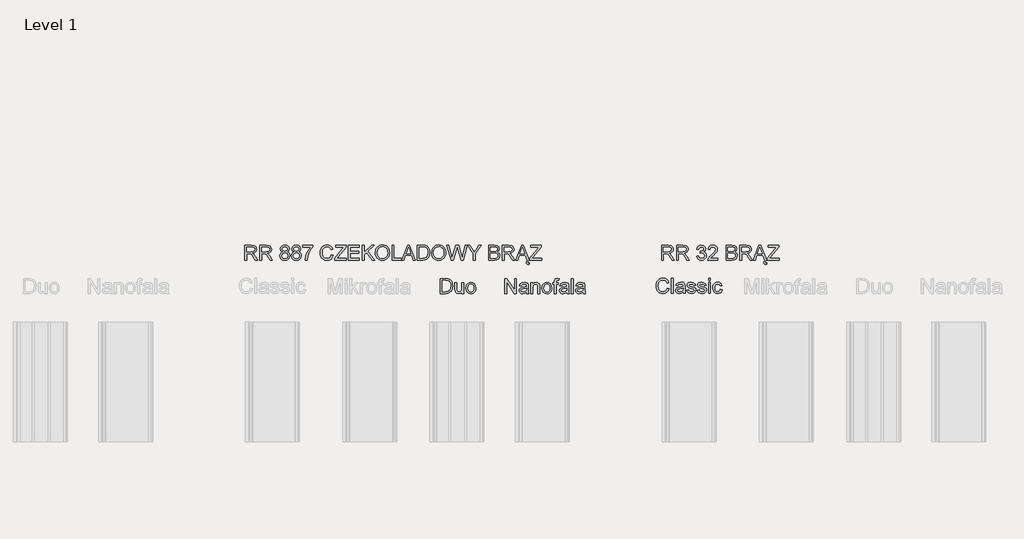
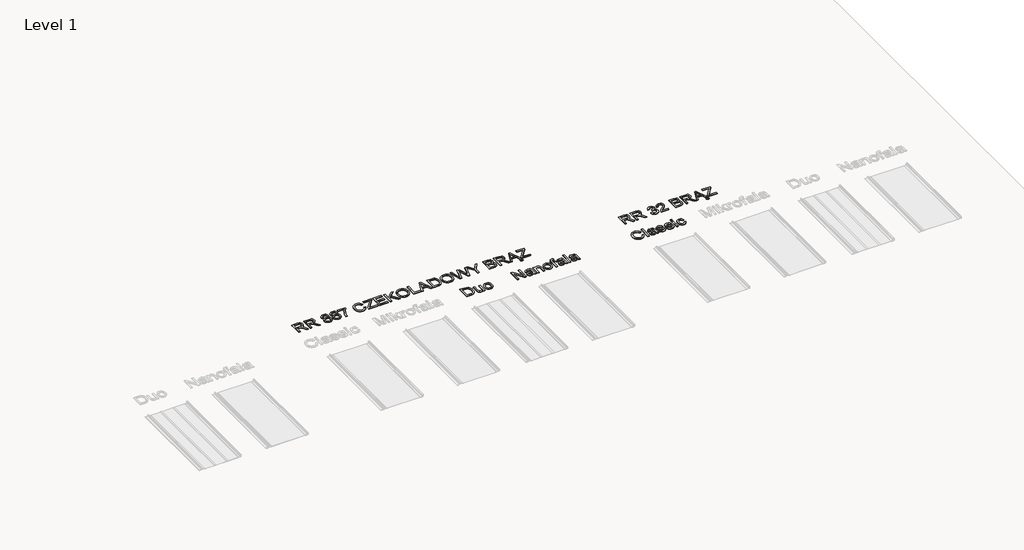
# One storey, part 20 of 22: 5 proxies.
"""IFC4 building model written with IfcOpenShell, lengths in millimetres."""

from ifc_helpers import new_model, si_unit, frame, origin, place, context, project, spatial, polyline, outline, extrude, element, save

model = new_model("IFC4")

# Units and contexts
model_context = context("Model", 3, world=origin())
ifc_project = project(units=[si_unit("LENGTHUNIT", "METRE", prefix="MILLI")], contexts=[model_context])

# Site, building, storey
site = spatial("IfcSite", under=ifc_project)
building = spatial("IfcBuilding", under=site)
storey = spatial("IfcBuildingStorey", under=building, Name="Level 1", Elevation=0.0)

# Proxies
placement = place(None, origin())
element("IfcBuildingElementProxy", 1, Name="150", ObjectType="150", at=placement, inside=storey, context=model_context, shape_type="SweptSolid", body=[
    extrude(outline(polyline([(1632.4192925, 1127.8407532), (1632.4192925, 1278.5252184), (1684.4010184, 1278.5252184), (1711.2931923, 1276.3547147), (1733.4396884, 1265.5757722), (1743.8599459, 1254.097854), (1751.2819651, 1239.8240325), (1755.7241402, 1223.0302195), (1757.2048653, 1203.9923262), (1753.1949515, 1173.5868793), (1742.8942557, 1151.6427183), (1729.135469, 1137.9759022), (1711.1276454, 1130.4159272), (1686.902616, 1127.8407532), (1632.4192925, 1127.8407532)]), holes=[polyline([(1651.2548507, 1146.6763114), (1684.5849594, 1146.6763114), (1708.8283829, 1149.3986381), (1722.8078987, 1157.0873718), (1734.2674229, 1175.7941713), (1738.3693071, 1204.2866318), (1736.3597517, 1224.8144471), (1730.3310855, 1239.9711853), (1721.4237427, 1250.3822458), (1710.7781575, 1256.6730279), (1684.0699246, 1259.6896603), (1651.2548507, 1259.6896603), (1651.2548507, 1146.6763114)])]), frame((0.0, 0.0, 600.0), z_axis=(0.0, 0.0, 1.0), x_axis=(1.0, 0.0, 0.0)), (0.0, 0.0, 1.0), 10.0),
    extrude(outline(polyline([(1851.382656, 1127.8407532), (1851.382656, 1146.8602524), (1836.630588, 1130.8297944), (1817.3903597, 1125.4863084), (1799.6768416, 1129.2387048), (1787.4631594, 1138.6564839), (1781.8529589, 1152.5256351), (1780.749313, 1170.0368181), (1780.749313, 1238.4996574), (1799.5848711, 1238.4996574), (1799.5848711, 1178.9027741), (1800.7253053, 1159.699334), (1808.1749157, 1148.4237508), (1822.2096138, 1144.3218666), (1837.9365691, 1148.5157213), (1848.3292355, 1159.9384573), (1851.382656, 1180.9261251), (1851.382656, 1238.4996574), (1870.2182142, 1238.4996574), (1870.2182142, 1127.8407532), (1851.382656, 1127.8407532)])), frame((0.0, 0.0, 600.0), z_axis=(0.0, 0.0, 1.0), x_axis=(1.0, 0.0, 0.0)), (0.0, 0.0, 1.0), 10.0),
    extrude(outline(polyline([(1891.4082171, 1183.1702053), (1895.4825102, 1209.850847), (1907.7053895, 1228.6036317), (1922.8069454, 1237.7914845), (1940.8883455, 1240.8541021), (1960.6757983, 1237.1246984), (1976.4809285, 1225.9364872), (1986.8414052, 1208.1723854), (1990.2948974, 1184.7153097), (1988.7681871, 1165.6866135), (1984.1880563, 1151.2012599), (1976.6878621, 1140.3533396), (1966.4009618, 1132.2369431), (1954.1826811, 1127.1739671), (1940.8883455, 1125.4863084), (1920.8617693, 1129.2019166), (1905.0750332, 1140.348741), (1894.8249211, 1158.4853234), (1891.4082171, 1183.1702053)]), holes=[polyline([(1910.2437753, 1183.2069935), (1912.4234761, 1166.1602615), (1918.9625785, 1154.0155572), (1928.8034219, 1146.7452892), (1940.8883455, 1144.3218666), (1952.9180867, 1146.7590848), (1962.740536, 1154.0707395), (1969.2796384, 1166.3763922), (1971.4593393, 1183.7956047), (1969.2658429, 1200.3456959), (1962.6853537, 1212.3248534), (1952.8491088, 1219.5951213), (1940.8883455, 1222.018544), (1928.8034219, 1219.6043184), (1918.9625785, 1212.3616416), (1912.4234761, 1200.2445284), (1910.2437753, 1183.2069935)])]), frame((0.0, 0.0, 600.0), z_axis=(0.0, 0.0, 1.0), x_axis=(1.0, 0.0, 0.0)), (0.0, 0.0, 1.0), 10.0),
])
element("IfcBuildingElementProxy", 2, Name="150", ObjectType="150", at=placement, inside=storey, context=model_context, shape_type="SweptSolid", body=[
    extrude(outline(polyline([(3920.9914008, 1182.8181359), (3939.8269589, 1177.9620936), (3931.1357468, 1156.013334), (3917.4965218, 1139.9782776), (3899.5806686, 1130.1696239), (3878.0595719, 1126.9000726), (3856.2119799, 1129.3740791), (3838.8617453, 1136.7960983), (3825.5628112, 1148.908613), (3815.8691206, 1165.4541057), (3809.950819, 1184.9058662), (3807.9780518, 1205.7371842), (3810.2083364, 1227.7089364), (3816.8991902, 1246.6824503), (3827.7011253, 1262.0553191), (3842.2646538, 1273.2251362), (3859.5367135, 1280.0263546), (3878.4642421, 1282.2934274), (3899.1162176, 1279.3595685), (3916.1905407, 1270.5579918), (3929.1537825, 1256.4313231), (3937.4725141, 1237.5221886), (3918.636956, 1233.0340282), (3912.1070506, 1246.7698222), (3903.1859122, 1256.1921998), (3891.7631762, 1261.6414519), (3877.7284781, 1263.4578692), (3861.5508674, 1261.4437153), (3848.2611303, 1255.4012536), (3838.1765651, 1245.9650804), (3831.61447, 1233.7697922), (3826.81361, 1205.7739724), (3828.2345542, 1188.373154), (3832.4973868, 1173.3267804), (3839.7630562, 1161.2096672), (3850.1925108, 1152.59663), (3862.6959001, 1147.4508806), (3876.1833737, 1145.7356308), (3891.9057305, 1148.0716815), (3905.0069281, 1155.0798335), (3914.8983552, 1166.6865104), (3920.9914008, 1182.8181359)])), frame((0.0, 0.0, 600.0), z_axis=(0.0, 0.0, 1.0), x_axis=(1.0, 0.0, 0.0)), (0.0, 0.0, 1.0), 10.0),
    extrude(outline(polyline([(3963.3714066, 1129.2545174), (3963.3714066, 1279.9389826), (3982.2069648, 1279.9389826), (3982.2069648, 1129.2545174), (3963.3714066, 1129.2545174)])), frame((0.0, 0.0, 600.0), z_axis=(0.0, 0.0, 1.0), x_axis=(1.0, 0.0, 0.0)), (0.0, 0.0, 1.0), 10.0),
    extrude(outline(polyline([(4081.0936451, 1143.381186), (4062.828304, 1130.6156808), (4042.6499766, 1126.9000726), (4026.9092257, 1129.1349558), (4015.2979502, 1135.8396051), (4008.1380469, 1146.0207393), (4005.7514125, 1158.685077), (4009.356656, 1173.5842978), (4018.8296174, 1184.4000285), (4032.0181869, 1190.580446), (4048.3153593, 1193.4131374), (4080.9832805, 1199.8878605), (4081.0936451, 1204.0817152), (4079.796861, 1212.4878188), (4075.9065089, 1217.9876546), (4067.2060997, 1222.0711448), (4055.084388, 1223.4323082), (4036.0281007, 1219.8086705), (4026.9414154, 1206.9511948), (4008.1058572, 1209.3056396), (4016.2544434, 1227.6997393), (4032.6619804, 1238.4786818), (4057.5124092, 1242.2678663), (4080.339487, 1238.9201402), (4093.2337509, 1230.5140366), (4099.0094982, 1217.7301372), (4099.9292032, 1201.2490239), (4099.9292032, 1177.8149408), (4100.8856964, 1145.0918373), (4104.6380928, 1129.2545174), (4085.8025346, 1129.2545174), (4081.0936451, 1143.381186)]), holes=[polyline([(4081.0936451, 1181.0523023), (4050.7065923, 1175.276555), (4034.5013904, 1172.2231344), (4027.1621446, 1167.2567275), (4024.5869706, 1160.0094522), (4030.197171, 1149.8191209), (4046.6598903, 1145.7356308), (4065.7161777, 1150.2421852), (4078.0034363, 1161.1498864), (4080.9832805, 1175.7180134), (4081.0936451, 1181.0523023)])]), frame((0.0, 0.0, 600.0), z_axis=(0.0, 0.0, 1.0), x_axis=(1.0, 0.0, 0.0)), (0.0, 0.0, 1.0), 10.0),
    extrude(outline(polyline([(4118.7647614, 1162.2167442), (4137.6003195, 1164.5711889), (4140.5709666, 1156.5145732), (4146.3191228, 1150.5916731), (4166.2951151, 1145.7356308), (4185.4985553, 1150.1870029), (4191.7525492, 1160.6348516), (4190.1798537, 1165.4357116), (4185.4617671, 1169.0961375), (4166.0743859, 1174.4672146), (4137.7106841, 1183.6826586), (4125.331455, 1194.4432069), (4121.1192061, 1209.6367334), (4124.5037205, 1223.6714315), (4133.7375586, 1234.3951916), (4145.7121175, 1239.9686039), (4161.9173194, 1242.2678663), (4184.8363677, 1238.5706523), (4199.4044947, 1228.564262), (4205.8792178, 1211.6600843), (4187.0436597, 1209.3056396), (4179.9619313, 1219.6983059), (4163.3888474, 1223.4323082), (4145.3626296, 1219.8638528), (4139.9547643, 1211.5497197), (4142.1988445, 1206.068278), (4149.2253906, 1201.9112115), (4165.4489866, 1197.9012977), (4193.0953185, 1189.0353416), (4205.9344001, 1178.9921632), (4210.5881074, 1162.6214144), (4205.1250597, 1144.5951966), (4189.3613162, 1131.5169917), (4166.0375977, 1126.9000726), (4147.0456897, 1129.1257587), (4133.1857356, 1135.8028169), (4123.9335034, 1146.8576709), (4118.7647614, 1162.2167442)])), frame((0.0, 0.0, 600.0), z_axis=(0.0, 0.0, 1.0), x_axis=(1.0, 0.0, 0.0)), (0.0, 0.0, 1.0), 10.0),
    extrude(outline(polyline([(4224.714776, 1162.2167442), (4243.5503341, 1164.5711889), (4246.5209812, 1156.5145732), (4252.2691374, 1150.5916731), (4272.2451298, 1145.7356308), (4291.4485699, 1150.1870029), (4297.7025638, 1160.6348516), (4296.1298683, 1165.4357116), (4291.4117817, 1169.0961375), (4272.0244006, 1174.4672146), (4243.6606987, 1183.6826586), (4231.2814696, 1194.4432069), (4227.0692207, 1209.6367334), (4230.4537351, 1223.6714315), (4239.6875732, 1234.3951916), (4251.6621321, 1239.9686039), (4267.867334, 1242.2678663), (4290.7863823, 1238.5706523), (4305.3545093, 1228.564262), (4311.8292324, 1211.6600843), (4292.9936743, 1209.3056396), (4285.9119459, 1219.6983059), (4269.338862, 1223.4323082), (4251.3126442, 1219.8638528), (4245.9047789, 1211.5497197), (4248.1488591, 1206.068278), (4255.1754052, 1201.9112115), (4271.3990012, 1197.9012977), (4299.0453331, 1189.0353416), (4311.8844147, 1178.9921632), (4316.538122, 1162.6214144), (4311.0750743, 1144.5951966), (4295.3113309, 1131.5169917), (4271.9876124, 1126.9000726), (4252.9957044, 1129.1257587), (4239.1357502, 1135.8028169), (4229.883518, 1146.8576709), (4224.714776, 1162.2167442)])), frame((0.0, 0.0, 600.0), z_axis=(0.0, 0.0, 1.0), x_axis=(1.0, 0.0, 0.0)), (0.0, 0.0, 1.0), 10.0),
    extrude(outline(polyline([(4337.7281249, 1261.1034245), (4337.7281249, 1279.9389826), (4356.5636831, 1279.9389826), (4356.5636831, 1261.1034245), (4337.7281249, 1261.1034245)])), frame((0.0, 0.0, 600.0), z_axis=(0.0, 0.0, 1.0), x_axis=(1.0, 0.0, 0.0)), (0.0, 0.0, 1.0), 10.0),
    extrude(outline(polyline([(4337.7281249, 1129.2545174), (4337.7281249, 1239.9134216), (4356.5636831, 1239.9134216), (4356.5636831, 1129.2545174), (4337.7281249, 1129.2545174)])), frame((0.0, 0.0, 600.0), z_axis=(0.0, 0.0, 1.0), x_axis=(1.0, 0.0, 0.0)), (0.0, 0.0, 1.0), 10.0),
    extrude(outline(polyline([(4455.4503634, 1169.2800785), (4474.2859215, 1166.9256337), (4469.034406, 1150.1732074), (4459.1659715, 1137.5134682), (4445.60952, 1129.5534215), (4429.2939535, 1126.9000726), (4409.2581803, 1130.6018852), (4393.5910059, 1141.7073229), (4383.4788495, 1159.7289422), (4380.1081307, 1184.1792993), (4381.547469, 1200.9409227), (4385.865484, 1215.467663), (4393.1311534, 1227.1985001), (4403.4134551, 1235.572414), (4415.7145094, 1240.5940032), (4429.0364361, 1242.2678663), (4444.9519309, 1239.9686039), (4457.6760494, 1233.0708164), (4466.8041214, 1221.9423861), (4471.9314767, 1206.9511948), (4453.0959186, 1204.59675), (4444.3587212, 1218.7050245), (4429.1835889, 1223.4323082), (4417.0112934, 1221.1054546), (4407.3497925, 1214.1248937), (4401.0452148, 1202.1135465), (4398.9436889, 1184.6943341), (4400.9992295, 1167.0405968), (4407.1658515, 1154.987863), (4416.6526084, 1148.0486888), (4428.6685541, 1145.7356308), (4438.4220255, 1147.1795676), (4446.4188604, 1151.5113781), (4452.2359944, 1158.8414269), (4455.4503634, 1169.2800785)])), frame((0.0, 0.0, 600.0), z_axis=(0.0, 0.0, 1.0), x_axis=(1.0, 0.0, 0.0)), (0.0, 0.0, 1.0), 10.0),
])
element("IfcBuildingElementProxy", 3, Name="150", ObjectType="150", at=placement, inside=storey, context=model_context, shape_type="SweptSolid", body=[
    extrude(outline(polyline([(2283.2193428, 1127.8407532), (2283.2193428, 1278.5252184), (2303.3792761, 1278.5252184), (2382.1060231, 1159.147511), (2382.1060231, 1278.5252184), (2400.9415812, 1278.5252184), (2400.9415812, 1127.8407532), (2380.7816479, 1127.8407532), (2302.0549009, 1247.2552488), (2302.0549009, 1127.8407532), (2283.2193428, 1127.8407532)])), frame((0.0, 0.0, 600.0), z_axis=(0.0, 0.0, 1.0), x_axis=(1.0, 0.0, 0.0)), (0.0, 0.0, 1.0), 10.0),
    extrude(outline(polyline([(2502.1827063, 1141.9674218), (2483.9173653, 1129.2019166), (2463.7390378, 1125.4863084), (2447.998287, 1127.7211916), (2436.3870115, 1134.4258409), (2429.2271081, 1144.6069751), (2426.8404737, 1157.2713128), (2430.4457173, 1172.1705336), (2439.9186786, 1182.9862643), (2453.1072482, 1189.1666818), (2469.4044205, 1191.9993732), (2502.0723417, 1198.4740963), (2502.1827063, 1202.667951), (2500.8859223, 1211.0740546), (2496.9955702, 1216.5738904), (2488.295161, 1220.6573806), (2476.1734493, 1222.018544), (2457.1171619, 1218.3949063), (2448.0304766, 1205.5374306), (2429.1949185, 1207.8918754), (2437.3435047, 1226.2859751), (2453.7510417, 1237.0649176), (2478.6014704, 1240.8541021), (2501.4285482, 1237.506376), (2514.3228122, 1229.1002724), (2520.0985595, 1216.316373), (2521.0182645, 1199.8352597), (2521.0182645, 1176.4011766), (2521.9747577, 1143.6780731), (2525.727154, 1127.8407532), (2506.8915959, 1127.8407532), (2502.1827063, 1141.9674218)]), holes=[polyline([(2502.1827063, 1179.6385381), (2471.7956535, 1173.8627908), (2455.5904516, 1170.8093702), (2448.2512058, 1165.8429633), (2445.6760319, 1158.595688), (2451.2862323, 1148.4053567), (2467.7489516, 1144.3218666), (2486.8052389, 1148.828421), (2499.0924976, 1159.7361222), (2502.0723417, 1174.3042492), (2502.1827063, 1179.6385381)])]), frame((0.0, 0.0, 600.0), z_axis=(0.0, 0.0, 1.0), x_axis=(1.0, 0.0, 0.0)), (0.0, 0.0, 1.0), 10.0),
    extrude(outline(polyline([(2546.9171569, 1127.8407532), (2546.9171569, 1238.4996574), (2565.7527151, 1238.4996574), (2565.7527151, 1223.0486136), (2580.1552952, 1236.40273), (2599.8185878, 1240.8541021), (2617.6056823, 1237.2672527), (2629.7457881, 1227.8494736), (2635.3927768, 1213.9987165), (2636.3860582, 1195.7885577), (2636.3860582, 1127.8407532), (2617.5505, 1127.8407532), (2617.5505, 1193.250172), (2615.3799962, 1209.9152263), (2607.7096566, 1218.7260001), (2594.7786045, 1222.018544), (2583.7467432, 1220.1699369), (2574.3427597, 1214.6241159), (2567.9002262, 1203.9095528), (2565.7527151, 1186.5547196), (2565.7527151, 1127.8407532), (2546.9171569, 1127.8407532)])), frame((0.0, 0.0, 600.0), z_axis=(0.0, 0.0, 1.0), x_axis=(1.0, 0.0, 0.0)), (0.0, 0.0, 1.0), 10.0),
    extrude(outline(polyline([(2657.5760611, 1183.1702053), (2661.6503542, 1209.850847), (2673.8732335, 1228.6036317), (2688.9747894, 1237.7914845), (2707.0561894, 1240.8541021), (2726.8436422, 1237.1246984), (2742.6487725, 1225.9364872), (2753.0092492, 1208.1723854), (2756.4627414, 1184.7153097), (2754.9360311, 1165.6866135), (2750.3559003, 1151.2012599), (2742.8557061, 1140.3533396), (2732.5688058, 1132.2369431), (2720.350525, 1127.1739671), (2707.0561894, 1125.4863084), (2687.0296133, 1129.2019166), (2671.2428772, 1140.348741), (2660.9927651, 1158.4853234), (2657.5760611, 1183.1702053)]), holes=[polyline([(2676.4116192, 1183.2069935), (2678.5913201, 1166.1602615), (2685.1304225, 1154.0155572), (2694.9712659, 1146.7452892), (2707.0561894, 1144.3218666), (2719.0859307, 1146.7590848), (2728.9083799, 1154.0707395), (2735.4474824, 1166.3763922), (2737.6271832, 1183.7956047), (2735.4336868, 1200.3456959), (2728.8531976, 1212.3248534), (2719.0169528, 1219.5951213), (2707.0561894, 1222.018544), (2694.9712659, 1219.6043184), (2685.1304225, 1212.3616416), (2678.5913201, 1200.2445284), (2676.4116192, 1183.2069935)])]), frame((0.0, 0.0, 600.0), z_axis=(0.0, 0.0, 1.0), x_axis=(1.0, 0.0, 0.0)), (0.0, 0.0, 1.0), 10.0),
    extrude(outline(polyline([(2782.3616338, 1127.8407532), (2782.3616338, 1219.6640992), (2765.8805205, 1219.6640992), (2765.8805205, 1238.4996574), (2782.3616338, 1238.4996574), (2782.3616338, 1249.6464818), (2784.3481966, 1265.355043), (2793.9867049, 1276.5754439), (2812.9694158, 1280.8796632), (2830.149505, 1278.819524), (2827.3903901, 1261.1611883), (2816.5378712, 1262.044105), (2804.6736769, 1258.9171081), (2801.197192, 1247.2552488), (2801.197192, 1238.4996574), (2822.3871949, 1238.4996574), (2822.3871949, 1219.6640992), (2801.197192, 1219.6640992), (2801.197192, 1127.8407532), (2782.3616338, 1127.8407532)])), frame((0.0, 0.0, 600.0), z_axis=(0.0, 0.0, 1.0), x_axis=(1.0, 0.0, 0.0)), (0.0, 0.0, 1.0), 10.0),
    extrude(outline(polyline([(2909.5016514, 1141.9674218), (2891.2363103, 1129.2019166), (2871.0579829, 1125.4863084), (2855.317232, 1127.7211916), (2843.7059565, 1134.4258409), (2836.5460532, 1144.6069751), (2834.1594188, 1157.2713128), (2837.7646623, 1172.1705336), (2847.2376237, 1182.9862643), (2860.4261932, 1189.1666818), (2876.7233656, 1191.9993732), (2909.3912868, 1198.4740963), (2909.5016514, 1202.667951), (2908.2048673, 1211.0740546), (2904.3145152, 1216.5738904), (2895.6141061, 1220.6573806), (2883.4923943, 1222.018544), (2864.436107, 1218.3949063), (2855.3494217, 1205.5374306), (2836.5138635, 1207.8918754), (2844.6624497, 1226.2859751), (2861.0699867, 1237.0649176), (2885.9204155, 1240.8541021), (2908.7474933, 1237.506376), (2921.6417572, 1229.1002724), (2927.4175045, 1216.316373), (2928.3372095, 1199.8352597), (2928.3372095, 1176.4011766), (2929.2937027, 1143.6780731), (2933.0460991, 1127.8407532), (2914.2105409, 1127.8407532), (2909.5016514, 1141.9674218)]), holes=[polyline([(2909.5016514, 1179.6385381), (2879.1145986, 1173.8627908), (2862.9093967, 1170.8093702), (2855.5701509, 1165.8429633), (2852.9949769, 1158.595688), (2858.6051773, 1148.4053567), (2875.0678966, 1144.3218666), (2894.124184, 1148.828421), (2906.4114426, 1159.7361222), (2909.3912868, 1174.3042492), (2909.5016514, 1179.6385381)])]), frame((0.0, 0.0, 600.0), z_axis=(0.0, 0.0, 1.0), x_axis=(1.0, 0.0, 0.0)), (0.0, 0.0, 1.0), 10.0),
    extrude(outline(polyline([(2954.236102, 1127.8407532), (2954.236102, 1278.5252184), (2973.0716601, 1278.5252184), (2973.0716601, 1127.8407532), (2954.236102, 1127.8407532)])), frame((0.0, 0.0, 600.0), z_axis=(0.0, 0.0, 1.0), x_axis=(1.0, 0.0, 0.0)), (0.0, 0.0, 1.0), 10.0),
    extrude(outline(polyline([(3071.9583404, 1141.9674218), (3053.6929994, 1129.2019166), (3033.514672, 1125.4863084), (3017.7739211, 1127.7211916), (3006.1626456, 1134.4258409), (2999.0027423, 1144.6069751), (2996.6161078, 1157.2713128), (3000.2213514, 1172.1705336), (3009.6943128, 1182.9862643), (3022.8828823, 1189.1666818), (3039.1800547, 1191.9993732), (3071.8479758, 1198.4740963), (3071.9583404, 1202.667951), (3070.6615564, 1211.0740546), (3066.7712043, 1216.5738904), (3058.0707951, 1220.6573806), (3045.9490834, 1222.018544), (3026.892796, 1218.3949063), (3017.8061108, 1205.5374306), (2998.9705526, 1207.8918754), (3007.1191388, 1226.2859751), (3023.5266758, 1237.0649176), (3048.3771046, 1240.8541021), (3071.2041824, 1237.506376), (3084.0984463, 1229.1002724), (3089.8741936, 1216.316373), (3090.7938986, 1199.8352597), (3090.7938986, 1176.4011766), (3091.7503918, 1143.6780731), (3095.5027881, 1127.8407532), (3076.66723, 1127.8407532), (3071.9583404, 1141.9674218)]), holes=[polyline([(3071.9583404, 1179.6385381), (3041.5712876, 1173.8627908), (3025.3660858, 1170.8093702), (3018.02684, 1165.8429633), (3015.451666, 1158.595688), (3021.0618664, 1148.4053567), (3037.5245857, 1144.3218666), (3056.580873, 1148.828421), (3068.8681317, 1159.7361222), (3071.8479758, 1174.3042492), (3071.9583404, 1179.6385381)])]), frame((0.0, 0.0, 600.0), z_axis=(0.0, 0.0, 1.0), x_axis=(1.0, 0.0, 0.0)), (0.0, 0.0, 1.0), 10.0),
])
element("IfcBuildingElementProxy", 4, Name="150 Blue", ObjectType="150 Blue", at=placement, inside=storey, context=model_context, shape_type="SweptSolid", body=[
    extrude(outline(polyline([(-336.4118342, 1464.3485888), (-336.4118342, 1615.033054), (-271.4806621, 1615.033054), (-241.3327325, 1610.967958), (-232.0529092, 1605.3393635), (-224.8516192, 1596.583772), (-220.2301016, 1585.7266546), (-218.6895957, 1573.7934824), (-221.2417771, 1558.9494439), (-228.8983211, 1546.6437911), (-241.8891541, 1537.6214852), (-260.4442022, 1532.6274871), (-249.7388361, 1524.5708714), (-234.4717333, 1505.1834903), (-209.3453931, 1464.3485888), (-231.2343718, 1464.3485888), (-250.8424821, 1495.5817702), (-265.0059389, 1516.2567383), (-274.9571469, 1526.0240053), (-283.9150735, 1529.6108548), (-294.8411687, 1530.2730423), (-317.576276, 1530.2730423), (-317.576276, 1464.3485888), (-336.4118342, 1464.3485888)]), holes=[polyline([(-317.576276, 1549.1086005), (-275.4169994, 1549.1086005), (-253.9142968, 1551.775745), (-241.7006145, 1560.3106073), (-237.5251539, 1573.0945066), (-239.5163152, 1582.2823594), (-245.4897991, 1589.6859846), (-255.7675023, 1594.5696181), (-270.6713217, 1596.1974959), (-317.576276, 1596.1974959), (-317.576276, 1549.1086005)])]), frame((0.0, 0.0, 600.0), z_axis=(0.0, 0.0, 1.0), x_axis=(1.0, 0.0, 0.0)), (0.0, 0.0, 1.0), 10.0),
    extrude(outline(polyline([(-185.727369, 1464.3485888), (-185.727369, 1615.033054), (-120.7961968, 1615.033054), (-90.6482673, 1610.967958), (-81.368444, 1605.3393635), (-74.1671539, 1596.583772), (-69.5456364, 1585.7266546), (-68.0051305, 1573.7934824), (-70.5573119, 1558.9494439), (-78.2138559, 1546.6437911), (-91.2046888, 1537.6214852), (-109.759737, 1532.6274871), (-99.0543709, 1524.5708714), (-83.7872681, 1505.1834903), (-58.6609278, 1464.3485888), (-80.5499066, 1464.3485888), (-100.1580169, 1495.5817702), (-114.3214737, 1516.2567383), (-124.2726817, 1526.0240053), (-133.2306083, 1529.6108548), (-144.1567035, 1530.2730423), (-166.8918108, 1530.2730423), (-166.8918108, 1464.3485888), (-185.727369, 1464.3485888)]), holes=[polyline([(-166.8918108, 1549.1086005), (-124.7325342, 1549.1086005), (-103.2298316, 1551.775745), (-91.0161493, 1560.3106073), (-86.8406887, 1573.0945066), (-88.83185, 1582.2823594), (-94.8053339, 1589.6859846), (-105.0830371, 1594.5696181), (-119.9868564, 1596.1974959), (-166.8918108, 1596.1974959), (-166.8918108, 1549.1086005)])]), frame((0.0, 0.0, 600.0), z_axis=(0.0, 0.0, 1.0), x_axis=(1.0, 0.0, 0.0)), (0.0, 0.0, 1.0), 10.0),
    extrude(outline(polyline([(44.198878, 1547.3427669), (27.0371829, 1559.0414144), (21.4637707, 1577.2515731), (24.4987972, 1591.97605), (33.6038765, 1604.143747), (47.7581363, 1612.3107273), (65.9407039, 1615.033054), (84.2336361, 1612.2463479), (98.5718369, 1603.8862296), (107.8424632, 1591.5253945), (110.9326719, 1576.7365383), (105.4328361, 1558.9862321), (88.7493876, 1547.3427669), (100.342269, 1541.369283), (108.7805623, 1532.5723048), (113.9263117, 1521.3748966), (115.6415615, 1508.2001226), (112.238653, 1490.192299), (102.0299276, 1475.3114723), (86.2661842, 1465.3234761), (66.1982213, 1461.994144), (46.1302585, 1465.3372717), (30.366515, 1475.3666546), (20.1577896, 1490.3900355), (16.7548812, 1508.7151574), (18.5391088, 1522.4003677), (23.8917919, 1533.6575567), (32.5370188, 1542.1004485), (44.198878, 1547.3427669)]), holes=[polyline([(40.2993289, 1576.6997501), (41.9685934, 1568.4775875), (46.9763871, 1561.9108939), (55.175557, 1557.6066746), (66.4189505, 1556.1719348), (77.4002281, 1557.5974775), (85.4752379, 1561.8741057), (90.4416448, 1568.2200702), (92.0971138, 1575.8536216), (90.3864625, 1583.77688), (85.2545087, 1590.3297781), (77.0691343, 1594.7305664), (66.1982213, 1596.1974959), (55.2583305, 1594.7627561), (47.0867517, 1590.4585368), (41.9961846, 1584.1493605), (40.2993289, 1576.6997501)]), polyline([(35.5904393, 1509.377345), (38.7358304, 1495.1954941), (49.8642607, 1484.5820985), (66.3453741, 1480.8297022), (79.1660616, 1482.8024694), (88.7861758, 1488.720771), (94.8010464, 1497.6832961), (96.8060033, 1508.7887338), (94.7366671, 1520.0827111), (88.5286584, 1529.2429728), (78.6878151, 1535.3130257), (65.7199747, 1537.3363767), (53.0786297, 1535.3406168), (43.5550845, 1529.3533374), (37.5816006, 1520.3678196), (35.5904393, 1509.377345)])]), frame((0.0, 0.0, 600.0), z_axis=(0.0, 0.0, 1.0), x_axis=(1.0, 0.0, 0.0)), (0.0, 0.0, 1.0), 10.0),
    extrude(outline(polyline([(159.5666717, 1547.3427669), (142.4049766, 1559.0414144), (136.8315644, 1577.2515731), (139.8665909, 1591.97605), (148.9716702, 1604.143747), (163.12593, 1612.3107273), (181.3084976, 1615.033054), (199.6014298, 1612.2463479), (213.9396306, 1603.8862296), (223.2102569, 1591.5253945), (226.3004656, 1576.7365383), (220.8006298, 1558.9862321), (204.1171813, 1547.3427669), (215.7100627, 1541.369283), (224.1483559, 1532.5723048), (229.2941054, 1521.3748966), (231.0093552, 1508.2001226), (227.6064467, 1490.192299), (217.3977213, 1475.3114723), (201.6339778, 1465.3234761), (181.566015, 1461.994144), (161.4980522, 1465.3372717), (145.7343087, 1475.3666546), (135.5255833, 1490.3900355), (132.1226749, 1508.7151574), (133.9069025, 1522.4003677), (139.2595856, 1533.6575567), (147.9048124, 1542.1004485), (159.5666717, 1547.3427669)]), holes=[polyline([(155.6671225, 1576.6997501), (157.3363871, 1568.4775875), (162.3441808, 1561.9108939), (170.5433507, 1557.6066746), (181.7867442, 1556.1719348), (192.7680218, 1557.5974775), (200.8430316, 1561.8741057), (205.8094385, 1568.2200702), (207.4649075, 1575.8536216), (205.7542562, 1583.77688), (200.6223024, 1590.3297781), (192.436928, 1594.7305664), (181.566015, 1596.1974959), (170.6261242, 1594.7627561), (162.4545454, 1590.4585368), (157.3639782, 1584.1493605), (155.6671225, 1576.6997501)]), polyline([(150.958233, 1509.377345), (154.1036241, 1495.1954941), (165.2320544, 1484.5820985), (181.7131678, 1480.8297022), (194.5338553, 1482.8024694), (204.1539695, 1488.720771), (210.1688401, 1497.6832961), (212.173797, 1508.7887338), (210.1044608, 1520.0827111), (203.8964521, 1529.2429728), (194.0556087, 1535.3130257), (181.0877684, 1537.3363767), (168.4464234, 1535.3406168), (158.9228782, 1529.3533374), (152.9493943, 1520.3678196), (150.958233, 1509.377345)])]), frame((0.0, 0.0, 600.0), z_axis=(0.0, 0.0, 1.0), x_axis=(1.0, 0.0, 0.0)), (0.0, 0.0, 1.0), 10.0),
    extrude(outline(polyline([(247.4904685, 1593.8430511), (247.4904685, 1612.6786093), (346.3771488, 1612.6786093), (346.3771488, 1597.4482947), (318.3261467, 1556.9260929), (306.0158954, 1531.4640603), (296.8602323, 1505.2938549), (289.8704744, 1464.3485888), (271.0349162, 1464.3485888), (278.5213148, 1506.8389593), (287.2355196, 1531.2985134), (299.0675243, 1554.8659537), (327.5415907, 1593.8430511), (247.4904685, 1593.8430511)])), frame((0.0, 0.0, 600.0), z_axis=(0.0, 0.0, 1.0), x_axis=(1.0, 0.0, 0.0)), (0.0, 0.0, 1.0), 10.0),
    extrude(outline(polyline([(534.7327304, 1517.9122073), (553.5682885, 1513.056165), (544.8770764, 1491.1074054), (531.2378514, 1475.072349), (513.3219983, 1465.2636953), (491.8009015, 1461.994144), (469.9533096, 1464.4681505), (452.603075, 1471.8901697), (439.3041408, 1484.0026844), (429.6104503, 1500.5481771), (423.6921487, 1519.9999376), (421.7193815, 1540.8312556), (423.9496661, 1562.8030078), (430.6405198, 1581.7765217), (441.4424549, 1597.1493905), (456.0059834, 1608.3192076), (473.2780431, 1615.120426), (492.2055717, 1617.3874988), (512.8575472, 1614.4536399), (529.9318703, 1605.6520632), (542.8951121, 1591.5253945), (551.2138438, 1572.61626), (532.3782856, 1568.1280997), (525.8483802, 1581.8638936), (516.9272418, 1591.2862712), (505.5045059, 1596.7355233), (491.4698077, 1598.5519407), (475.292197, 1596.5377867), (462.0024599, 1590.495325), (451.9178947, 1581.0591518), (445.3557996, 1568.8638636), (440.5549396, 1540.8680438), (441.9758838, 1523.4672254), (446.2387164, 1508.4208518), (453.5043858, 1496.3037386), (463.9338404, 1487.6907014), (476.4372297, 1482.544952), (489.9247034, 1480.8297022), (505.6470601, 1483.1657529), (518.7482577, 1490.1739049), (528.6396848, 1501.7805818), (534.7327304, 1517.9122073)])), frame((0.0, 0.0, 600.0), z_axis=(0.0, 0.0, 1.0), x_axis=(1.0, 0.0, 0.0)), (0.0, 0.0, 1.0), 10.0),
    extrude(outline(polyline([(567.6949571, 1464.3485888), (567.6949571, 1483.8831228), (644.7294469, 1578.2816427), (659.3711503, 1596.1974959), (577.1127362, 1596.1974959), (577.1127362, 1615.033054), (683.0627508, 1615.033054), (683.0627508, 1596.1974959), (598.7441975, 1492.8962316), (590.7979464, 1483.184147), (685.4171956, 1483.184147), (685.4171956, 1464.3485888), (567.6949571, 1464.3485888)])), frame((0.0, 0.0, 600.0), z_axis=(0.0, 0.0, 1.0), x_axis=(1.0, 0.0, 0.0)), (0.0, 0.0, 1.0), 10.0),
    extrude(outline(polyline([(706.6071985, 1464.3485888), (706.6071985, 1615.033054), (814.9116579, 1615.033054), (814.9116579, 1596.1974959), (725.4427567, 1596.1974959), (725.4427567, 1551.4630453), (810.2027684, 1551.4630453), (810.2027684, 1532.6274871), (725.4427567, 1532.6274871), (725.4427567, 1483.184147), (817.2661027, 1483.184147), (817.2661027, 1464.3485888), (706.6071985, 1464.3485888)])), frame((0.0, 0.0, 600.0), z_axis=(0.0, 0.0, 1.0), x_axis=(1.0, 0.0, 0.0)), (0.0, 0.0, 1.0), 10.0),
    extrude(outline(polyline([(845.5194399, 1464.3485888), (845.5194399, 1615.033054), (864.3549981, 1615.033054), (864.3549981, 1541.272714), (941.610217, 1615.033054), (967.9505679, 1615.033054), (903.0561839, 1553.081726), (970.3050127, 1464.3485888), (947.2755998, 1464.3485888), (889.7020675, 1540.353009), (864.3549981, 1516.1463737), (864.3549981, 1464.3485888), (845.5194399, 1464.3485888)])), frame((0.0, 0.0, 600.0), z_axis=(0.0, 0.0, 1.0), x_axis=(1.0, 0.0, 0.0)), (0.0, 0.0, 1.0), 10.0),
    extrude(outline(polyline([(977.368347, 1537.7042587), (982.3899362, 1571.0251704), (988.6669227, 1584.643702), (997.4547039, 1596.2342841), (1020.4565257, 1612.0991951), (1049.289277, 1617.3874988), (1069.0537372, 1614.9042953), (1086.7764523, 1607.4546849), (1101.4917321, 1595.5628994), (1112.2338864, 1579.7531707), (1118.80058, 1560.7888538), (1120.9894779, 1539.433304), (1118.6856169, 1517.7926457), (1111.7740339, 1498.5616144), (1100.6364065, 1482.7242945), (1085.6544123, 1471.2647703), (1068.0834485, 1464.3118006), (1049.1789124, 1461.994144), (1029.1109496, 1464.5555224), (1011.2870669, 1472.2396576), (996.6085753, 1484.3521723), (985.9767857, 1500.1986892), (979.5204566, 1518.4318406), (977.368347, 1537.7042587)]), holes=[polyline([(996.2039051, 1537.5203177), (999.9700971, 1513.9482788), (1011.2686728, 1495.9864404), (1028.2510254, 1484.6188867), (1049.0685478, 1480.8297022), (1070.1895729, 1484.6556749), (1087.1995166, 1496.1335932), (1098.415319, 1514.6472546), (1102.1539197, 1539.5804568), (1100.5536331, 1556.2547083), (1095.752773, 1570.6664854), (1087.8754998, 1582.4525048), (1077.0459736, 1591.249483), (1063.9815642, 1596.7263263), (1049.3996416, 1598.5519407), (1029.1385407, 1595.0340691), (1011.9124663, 1584.4804543), (1000.1310454, 1565.704677), (996.2039051, 1537.5203177)])]), frame((0.0, 0.0, 600.0), z_axis=(0.0, 0.0, 1.0), x_axis=(1.0, 0.0, 0.0)), (0.0, 0.0, 1.0), 10.0),
    extrude(outline(polyline([(1146.8883704, 1464.3485888), (1146.8883704, 1615.033054), (1165.7239285, 1615.033054), (1165.7239285, 1483.184147), (1241.0661611, 1483.184147), (1241.0661611, 1464.3485888), (1146.8883704, 1464.3485888)])), frame((0.0, 0.0, 600.0), z_axis=(0.0, 0.0, 1.0), x_axis=(1.0, 0.0, 0.0)), (0.0, 0.0, 1.0), 10.0),
    extrude(outline(polyline([(1244.7449811, 1464.3485888), (1304.8936873, 1615.033054), (1320.9333423, 1615.033054), (1381.0452603, 1464.3485888), (1361.1428443, 1464.3485888), (1343.925967, 1511.4374842), (1281.8274862, 1511.4374842), (1264.6106088, 1464.3485888), (1244.7449811, 1464.3485888)]), holes=[polyline([(1288.7436677, 1530.2730423), (1337.0465737, 1530.2730423), (1323.4349398, 1567.3187593), (1312.8767266, 1596.1974959), (1303.4957357, 1570.5561208), (1288.7436677, 1530.2730423)])]), frame((0.0, 0.0, 600.0), z_axis=(0.0, 0.0, 1.0), x_axis=(1.0, 0.0, 0.0)), (0.0, 0.0, 1.0), 10.0),
    extrude(outline(polyline([(1401.1684054, 1464.3485888), (1401.1684054, 1615.033054), (1453.1501313, 1615.033054), (1480.0423052, 1612.8625503), (1502.1888013, 1602.0836078), (1512.6090588, 1590.6056896), (1520.0310781, 1576.3318681), (1524.4732531, 1559.5380551), (1525.9539782, 1540.5001618), (1521.9440644, 1510.0947149), (1511.6433686, 1488.1505539), (1497.8845819, 1474.4837378), (1479.8767583, 1466.9237628), (1455.6517289, 1464.3485888), (1401.1684054, 1464.3485888)]), holes=[polyline([(1420.0039636, 1483.184147), (1453.3340723, 1483.184147), (1477.5774958, 1485.9064737), (1491.5570116, 1493.5952074), (1503.0165358, 1512.3020069), (1507.11842, 1540.7944674), (1505.1088646, 1561.3222827), (1499.0801984, 1576.4790209), (1490.1728556, 1586.8900814), (1479.5272704, 1593.1808635), (1452.8190375, 1596.1974959), (1420.0039636, 1596.1974959), (1420.0039636, 1483.184147)])]), frame((0.0, 0.0, 600.0), z_axis=(0.0, 0.0, 1.0), x_axis=(1.0, 0.0, 0.0)), (0.0, 0.0, 1.0), 10.0),
    extrude(outline(polyline([(1544.7895363, 1537.7042587), (1549.8111256, 1571.0251704), (1556.0881121, 1584.643702), (1564.8758933, 1596.2342841), (1587.877715, 1612.0991951), (1616.7104664, 1617.3874988), (1636.4749266, 1614.9042953), (1654.1976417, 1607.4546849), (1668.9129215, 1595.5628994), (1679.6550758, 1579.7531707), (1686.2217694, 1560.7888538), (1688.4106673, 1539.433304), (1686.1068063, 1517.7926457), (1679.1952233, 1498.5616144), (1668.0575959, 1482.7242945), (1653.0756016, 1471.2647703), (1635.5046378, 1464.3118006), (1616.6001018, 1461.994144), (1596.532139, 1464.5555224), (1578.7082563, 1472.2396576), (1564.0297647, 1484.3521723), (1553.397975, 1500.1986892), (1546.941646, 1518.4318406), (1544.7895363, 1537.7042587)]), holes=[polyline([(1563.6250945, 1537.5203177), (1567.3912864, 1513.9482788), (1578.6898622, 1495.9864404), (1595.6722148, 1484.6188867), (1616.4897372, 1480.8297022), (1637.6107622, 1484.6556749), (1654.620706, 1496.1335932), (1665.8365083, 1514.6472546), (1669.5751091, 1539.5804568), (1667.9748224, 1556.2547083), (1663.1739624, 1570.6664854), (1655.2966892, 1582.4525048), (1644.4671629, 1591.249483), (1631.4027536, 1596.7263263), (1616.820831, 1598.5519407), (1596.5597301, 1595.0340691), (1579.3336557, 1584.4804543), (1567.5522348, 1565.704677), (1563.6250945, 1537.5203177)])]), frame((0.0, 0.0, 600.0), z_axis=(0.0, 0.0, 1.0), x_axis=(1.0, 0.0, 0.0)), (0.0, 0.0, 1.0), 10.0),
    extrude(outline(polyline([(1741.27531, 1464.3485888), (1700.1828911, 1615.033054), (1719.6070604, 1615.033054), (1743.4458137, 1515.9992209), (1750.8034536, 1485.4282271), (1758.6761283, 1512.4675538), (1788.5481463, 1615.033054), (1816.5439662, 1615.033054), (1838.2490039, 1540.6841028), (1854.3990235, 1485.4282271), (1861.5359342, 1515.1163041), (1885.5586285, 1615.033054), (1905.019586, 1615.033054), (1863.9639553, 1464.3485888), (1843.804022, 1464.3485888), (1807.6412219, 1580.5992993), (1802.6012386, 1596.8228953), (1796.9358558, 1577.2883613), (1764.0104173, 1464.3485888), (1741.27531, 1464.3485888)])), frame((0.0, 0.0, 600.0), z_axis=(0.0, 0.0, 1.0), x_axis=(1.0, 0.0, 0.0)), (0.0, 0.0, 1.0), 10.0),
    extrude(outline(polyline([(1966.23515, 1464.3485888), (1966.23515, 1528.176115), (1907.3740308, 1615.033054), (1929.5573151, 1615.033054), (1960.9744375, 1568.6431344), (1977.0508807, 1544.951534), (1993.2009003, 1570.3353916), (2021.7117549, 1615.033054), (2043.9318274, 1615.033054), (1985.0707082, 1528.176115), (1985.0707082, 1464.3485888), (1966.23515, 1464.3485888)])), frame((0.0, 0.0, 600.0), z_axis=(0.0, 0.0, 1.0), x_axis=(1.0, 0.0, 0.0)), (0.0, 0.0, 1.0), 10.0),
    extrude(outline(polyline([(2119.27406, 1464.3485888), (2119.27406, 1615.033054), (2176.7740158, 1615.033054), (2204.9353826, 1610.600076), (2214.3991469, 1604.97608), (2221.5636488, 1596.9700481), (2227.5785194, 1577.6930315), (2222.5201419, 1560.0898781), (2207.234645, 1546.7541557), (2217.9078214, 1541.1807435), (2225.7942917, 1532.7010635), (2230.6641296, 1521.8761358), (2232.2874089, 1509.2669804), (2227.8544309, 1489.0150766), (2216.8731533, 1474.5941024), (2200.4840104, 1466.9421569), (2176.3325575, 1464.3485888), (2119.27406, 1464.3485888)]), holes=[polyline([(2138.1096182, 1553.81749), (2172.5065847, 1553.81749), (2192.5929416, 1555.4361708), (2204.6778652, 1562.4075346), (2208.7429612, 1574.6763992), (2204.9537767, 1586.9636578), (2194.1012578, 1594.2293272), (2169.8946225, 1596.1974959), (2138.1096182, 1596.1974959), (2138.1096182, 1553.81749)]), polyline([(2138.1096182, 1483.184147), (2176.7372276, 1483.184147), (2190.7167435, 1483.919911), (2202.5441496, 1488.0217952), (2210.3800361, 1496.3911106), (2213.4518508, 1509.0830394), (2209.8466072, 1523.7247428), (2198.1663539, 1532.4619402), (2174.8978177, 1534.9819319), (2138.1096182, 1534.9819319), (2138.1096182, 1483.184147)])]), frame((0.0, 0.0, 600.0), z_axis=(0.0, 0.0, 1.0), x_axis=(1.0, 0.0, 0.0)), (0.0, 0.0, 1.0), 10.0),
    extrude(outline(polyline([(2258.1863014, 1464.3485888), (2258.1863014, 1615.033054), (2323.1174735, 1615.033054), (2353.265403, 1610.967958), (2362.5452264, 1605.3393635), (2369.7465164, 1596.583772), (2374.368034, 1585.7266546), (2375.9085398, 1573.7934824), (2373.3563585, 1558.9494439), (2365.6998145, 1546.6437911), (2352.7089815, 1537.6214852), (2334.1539334, 1532.6274871), (2344.8592994, 1524.5708714), (2360.1264022, 1505.1834903), (2385.2527425, 1464.3485888), (2363.3637638, 1464.3485888), (2343.7556535, 1495.5817702), (2329.5921966, 1516.2567383), (2319.6409887, 1526.0240053), (2310.6830621, 1529.6108548), (2299.7569668, 1530.2730423), (2277.0218595, 1530.2730423), (2277.0218595, 1464.3485888), (2258.1863014, 1464.3485888)]), holes=[polyline([(2277.0218595, 1549.1086005), (2319.1811362, 1549.1086005), (2340.6838388, 1551.775745), (2352.897521, 1560.3106073), (2357.0729817, 1573.0945066), (2355.0818204, 1582.2823594), (2349.1083365, 1589.6859846), (2338.8306332, 1594.5696181), (2323.9268139, 1596.1974959), (2277.0218595, 1596.1974959), (2277.0218595, 1549.1086005)])]), frame((0.0, 0.0, 600.0), z_axis=(0.0, 0.0, 1.0), x_axis=(1.0, 0.0, 0.0)), (0.0, 0.0, 1.0), 10.0),
    extrude(outline(polyline([(2391.3595836, 1464.3485888), (2451.5082898, 1615.033054), (2467.5479448, 1615.033054), (2527.6598628, 1464.3485888), (2524.7535951, 1464.3485888), (2515.6853039, 1455.2435094), (2512.4663364, 1444.2622319), (2514.7655989, 1436.7942274), (2522.2152093, 1433.7408068), (2526.9240989, 1434.4029944), (2531.3018946, 1436.168828), (2531.3018946, 1423.1825936), (2518.094931, 1419.6141382), (2509.43131, 1421.1224544), (2503.2508925, 1425.2795209), (2499.5536784, 1431.3679679), (2498.3396678, 1438.7440019), (2502.0184878, 1452.1165125), (2512.4295482, 1464.3485888), (2507.7574469, 1464.3485888), (2490.5405695, 1511.4374842), (2428.4420887, 1511.4374842), (2411.2252114, 1464.3485888), (2391.3595836, 1464.3485888)]), holes=[polyline([(2435.3582703, 1530.2730423), (2483.6611762, 1530.2730423), (2470.0495424, 1567.3187593), (2459.4913291, 1596.1974959), (2450.1103383, 1570.5561208), (2435.3582703, 1530.2730423)])]), frame((0.0, 0.0, 600.0), z_axis=(0.0, 0.0, 1.0), x_axis=(1.0, 0.0, 0.0)), (0.0, 0.0, 1.0), 10.0),
    extrude(outline(polyline([(2536.0107841, 1464.3485888), (2536.0107841, 1483.8831228), (2613.0452739, 1578.2816427), (2627.6869773, 1596.1974959), (2545.4285632, 1596.1974959), (2545.4285632, 1615.033054), (2651.3785778, 1615.033054), (2651.3785778, 1596.1974959), (2567.0600245, 1492.8962316), (2559.1137734, 1483.184147), (2653.7330226, 1483.184147), (2653.7330226, 1464.3485888), (2536.0107841, 1464.3485888)])), frame((0.0, 0.0, 600.0), z_axis=(0.0, 0.0, 1.0), x_axis=(1.0, 0.0, 0.0)), (0.0, 0.0, 1.0), 10.0),
])
element("IfcBuildingElementProxy", 5, Name="150 Blue", ObjectType="150 Blue", at=placement, inside=storey, context=model_context, shape_type="SweptSolid", body=[
    extrude(outline(polyline([(3863.5881658, 1464.3485888), (3863.5881658, 1615.033054), (3928.5193379, 1615.033054), (3958.6672675, 1610.967958), (3967.9470908, 1605.3393635), (3975.1483808, 1596.583772), (3979.7698984, 1585.7266546), (3981.3104043, 1573.7934824), (3978.7582229, 1558.9494439), (3971.1016789, 1546.6437911), (3958.1108459, 1537.6214852), (3939.5557978, 1532.6274871), (3950.2611639, 1524.5708714), (3965.5282667, 1505.1834903), (3990.6546069, 1464.3485888), (3968.7656282, 1464.3485888), (3949.1575179, 1495.5817702), (3934.9940611, 1516.2567383), (3925.0428531, 1526.0240053), (3916.0849265, 1529.6108548), (3905.1588313, 1530.2730423), (3882.423724, 1530.2730423), (3882.423724, 1464.3485888), (3863.5881658, 1464.3485888)]), holes=[polyline([(3882.423724, 1549.1086005), (3924.5830006, 1549.1086005), (3946.0857032, 1551.775745), (3958.2993855, 1560.3106073), (3962.4748461, 1573.0945066), (3960.4836848, 1582.2823594), (3954.5102009, 1589.6859846), (3944.2324977, 1594.5696181), (3929.3286783, 1596.1974959), (3882.423724, 1596.1974959), (3882.423724, 1549.1086005)])]), frame((0.0, 0.0, 600.0), z_axis=(0.0, 0.0, 1.0), x_axis=(1.0, 0.0, 0.0)), (0.0, 0.0, 1.0), 10.0),
    extrude(outline(polyline([(4014.272631, 1464.3485888), (4014.272631, 1615.033054), (4079.2038032, 1615.033054), (4109.3517327, 1610.967958), (4118.631556, 1605.3393635), (4125.8328461, 1596.583772), (4130.4543636, 1585.7266546), (4131.9948695, 1573.7934824), (4129.4426881, 1558.9494439), (4121.7861441, 1546.6437911), (4108.7953112, 1537.6214852), (4090.240263, 1532.6274871), (4100.9456291, 1524.5708714), (4116.2127319, 1505.1834903), (4141.3390722, 1464.3485888), (4119.4500934, 1464.3485888), (4099.8419831, 1495.5817702), (4085.6785263, 1516.2567383), (4075.7273183, 1526.0240053), (4066.7693917, 1529.6108548), (4055.8432965, 1530.2730423), (4033.1081892, 1530.2730423), (4033.1081892, 1464.3485888), (4014.272631, 1464.3485888)]), holes=[polyline([(4033.1081892, 1549.1086005), (4075.2674658, 1549.1086005), (4096.7701684, 1551.775745), (4108.9838507, 1560.3106073), (4113.1593113, 1573.0945066), (4111.16815, 1582.2823594), (4105.1946661, 1589.6859846), (4094.9169629, 1594.5696181), (4080.0131436, 1596.1974959), (4033.1081892, 1596.1974959), (4033.1081892, 1549.1086005)])]), frame((0.0, 0.0, 600.0), z_axis=(0.0, 0.0, 1.0), x_axis=(1.0, 0.0, 0.0)), (0.0, 0.0, 1.0), 10.0),
    extrude(outline(polyline([(4216.7548812, 1504.3741499), (4235.5904393, 1506.7285947), (4239.8072867, 1494.8919915), (4245.9831057, 1486.8997551), (4254.4213989, 1482.3472154), (4265.4256691, 1480.8297022), (4278.3383272, 1482.9174325), (4288.3079292, 1489.1806235), (4294.6814848, 1498.5248262), (4296.8060033, 1509.8555916), (4294.6998789, 1520.6115414), (4288.3815056, 1529.3349433), (4278.8165738, 1535.1152891), (4266.9707735, 1537.0420711), (4253.7638099, 1534.9819319), (4255.8607373, 1553.81749), (4258.8773696, 1553.5967608), (4280.2513135, 1559.0046262), (4287.3698301, 1565.8656254), (4289.742669, 1575.6328924), (4288.0228207, 1583.767683), (4282.8632757, 1590.3665663), (4274.990601, 1594.7397635), (4265.1313635, 1596.1974959), (4255.253732, 1594.7259679), (4247.1787222, 1590.311384), (4241.2834132, 1582.9537441), (4237.9448841, 1572.6530482), (4219.1093259, 1575.007493), (4224.655147, 1591.9208677), (4234.5235815, 1604.5484172), (4248.0248508, 1612.4118948), (4264.4691759, 1615.033054), (4287.1858891, 1609.864312), (4303.0783913, 1595.7376434), (4308.5782272, 1576.7365383), (4303.3543028, 1559.3725082), (4287.903259, 1546.9013085), (4299.693877, 1542.1372367), (4308.4310744, 1534.0254387), (4313.8389397, 1523.0073729), (4315.6415615, 1509.5244978), (4312.0363179, 1491.1671863), (4301.2205873, 1475.8265071), (4284.8958237, 1465.4522348), (4264.7634815, 1461.994144), (4246.5533228, 1464.9463971), (4231.7276784, 1473.8031561), (4221.4177855, 1487.3504106), (4216.7548812, 1504.3741499)])), frame((0.0, 0.0, 600.0), z_axis=(0.0, 0.0, 1.0), x_axis=(1.0, 0.0, 0.0)), (0.0, 0.0, 1.0), 10.0),
    extrude(outline(polyline([(4428.6549104, 1483.184147), (4428.6549104, 1464.3485888), (4329.7682301, 1464.3485888), (4331.7915811, 1477.3348232), (4343.2511052, 1497.3292097), (4366.8507352, 1519.1630061), (4399.3531095, 1550.5433403), (4405.436958, 1561.3590709), (4407.4649075, 1571.880496), (4405.5473226, 1581.3120707), (4399.7945679, 1589.1525557), (4390.9516044, 1594.4362608), (4379.7633932, 1596.1974959), (4368.014162, 1594.4776476), (4358.88609, 1589.3181026), (4352.9953796, 1581.1235311), (4350.958233, 1570.2986034), (4332.1226749, 1572.6530482), (4336.6890101, 1590.872404), (4346.5620432, 1604.1805352), (4361.2267392, 1612.3199243), (4380.1680634, 1615.033054), (4399.2473434, 1612.0164217), (4413.8844483, 1602.9665246), (4423.1964613, 1589.4468613), (4426.3004656, 1573.0209302), (4422.9527395, 1555.1602593), (4411.8243091, 1536.6925832), (4384.8401648, 1510.8856612), (4363.1719152, 1492.7674729), (4354.6738412, 1483.184147), (4428.6549104, 1483.184147)])), frame((0.0, 0.0, 600.0), z_axis=(0.0, 0.0, 1.0), x_axis=(1.0, 0.0, 0.0)), (0.0, 0.0, 1.0), 10.0),
    extrude(outline(polyline([(4513.4149221, 1464.3485888), (4513.4149221, 1615.033054), (4570.9148779, 1615.033054), (4599.0762447, 1610.600076), (4608.540009, 1604.97608), (4615.7045108, 1596.9700481), (4621.7193815, 1577.6930315), (4616.661004, 1560.0898781), (4601.3755071, 1546.7541557), (4612.0486835, 1541.1807435), (4619.9351538, 1532.7010635), (4624.8049917, 1521.8761358), (4626.428271, 1509.2669804), (4621.995293, 1489.0150766), (4611.0140154, 1474.5941024), (4594.6248725, 1466.9421569), (4570.4734195, 1464.3485888), (4513.4149221, 1464.3485888)]), holes=[polyline([(4532.2504802, 1553.81749), (4566.6474468, 1553.81749), (4586.7338037, 1555.4361708), (4598.8187273, 1562.4075346), (4602.8838233, 1574.6763992), (4599.0946388, 1586.9636578), (4588.2421199, 1594.2293272), (4564.0354846, 1596.1974959), (4532.2504802, 1596.1974959), (4532.2504802, 1553.81749)]), polyline([(4532.2504802, 1483.184147), (4570.8780897, 1483.184147), (4584.8576055, 1483.919911), (4596.6850117, 1488.0217952), (4604.5208982, 1496.3911106), (4607.5927128, 1509.0830394), (4603.9874693, 1523.7247428), (4592.3072159, 1532.4619402), (4569.0386797, 1534.9819319), (4532.2504802, 1534.9819319), (4532.2504802, 1483.184147)])]), frame((0.0, 0.0, 600.0), z_axis=(0.0, 0.0, 1.0), x_axis=(1.0, 0.0, 0.0)), (0.0, 0.0, 1.0), 10.0),
    extrude(outline(polyline([(4652.3271635, 1464.3485888), (4652.3271635, 1615.033054), (4717.2583356, 1615.033054), (4747.4062651, 1610.967958), (4756.6860884, 1605.3393635), (4763.8873785, 1596.583772), (4768.5088961, 1585.7266546), (4770.0494019, 1573.7934824), (4767.4972206, 1558.9494439), (4759.8406765, 1546.6437911), (4746.8498436, 1537.6214852), (4728.2947955, 1532.6274871), (4739.0001615, 1524.5708714), (4754.2672643, 1505.1834903), (4779.3936046, 1464.3485888), (4757.5046259, 1464.3485888), (4737.8965155, 1495.5817702), (4723.7330587, 1516.2567383), (4713.7818508, 1526.0240053), (4704.8239242, 1529.6108548), (4693.8978289, 1530.2730423), (4671.1627216, 1530.2730423), (4671.1627216, 1464.3485888), (4652.3271635, 1464.3485888)]), holes=[polyline([(4671.1627216, 1549.1086005), (4713.3219983, 1549.1086005), (4734.8247009, 1551.775745), (4747.0383831, 1560.3106073), (4751.2138438, 1573.0945066), (4749.2226825, 1582.2823594), (4743.2491986, 1589.6859846), (4732.9714953, 1594.5696181), (4718.067676, 1596.1974959), (4671.1627216, 1596.1974959), (4671.1627216, 1549.1086005)])]), frame((0.0, 0.0, 600.0), z_axis=(0.0, 0.0, 1.0), x_axis=(1.0, 0.0, 0.0)), (0.0, 0.0, 1.0), 10.0),
    extrude(outline(polyline([(4785.5004457, 1464.3485888), (4845.6491519, 1615.033054), (4861.6888069, 1615.033054), (4921.8007249, 1464.3485888), (4918.8944572, 1464.3485888), (4909.826166, 1455.2435094), (4906.6071985, 1444.2622319), (4908.906461, 1436.7942274), (4916.3560714, 1433.7408068), (4921.0649609, 1434.4029944), (4925.4427567, 1436.168828), (4925.4427567, 1423.1825936), (4912.235793, 1419.6141382), (4903.5721721, 1421.1224544), (4897.3917545, 1425.2795209), (4893.6945405, 1431.3679679), (4892.4805299, 1438.7440019), (4896.1593499, 1452.1165125), (4906.5704103, 1464.3485888), (4901.898309, 1464.3485888), (4884.6814316, 1511.4374842), (4822.5829508, 1511.4374842), (4805.3660735, 1464.3485888), (4785.5004457, 1464.3485888)]), holes=[polyline([(4829.4991323, 1530.2730423), (4877.8020383, 1530.2730423), (4864.1904045, 1567.3187593), (4853.6321912, 1596.1974959), (4844.2512003, 1570.5561208), (4829.4991323, 1530.2730423)])]), frame((0.0, 0.0, 600.0), z_axis=(0.0, 0.0, 1.0), x_axis=(1.0, 0.0, 0.0)), (0.0, 0.0, 1.0), 10.0),
    extrude(outline(polyline([(4930.1516462, 1464.3485888), (4930.1516462, 1483.8831228), (5007.186136, 1578.2816427), (5021.8278394, 1596.1974959), (4939.5694253, 1596.1974959), (4939.5694253, 1615.033054), (5045.5194399, 1615.033054), (5045.5194399, 1596.1974959), (4961.2008866, 1492.8962316), (4953.2546355, 1483.184147), (5047.8738847, 1483.184147), (5047.8738847, 1464.3485888), (4930.1516462, 1464.3485888)])), frame((0.0, 0.0, 600.0), z_axis=(0.0, 0.0, 1.0), x_axis=(1.0, 0.0, 0.0)), (0.0, 0.0, 1.0), 10.0),
])

save(model, "model.ifc")
